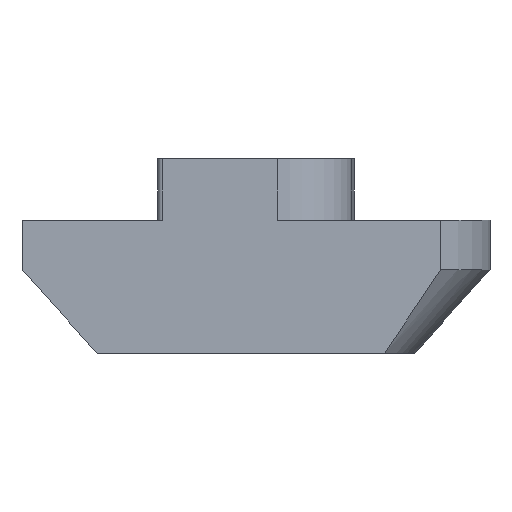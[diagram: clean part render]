
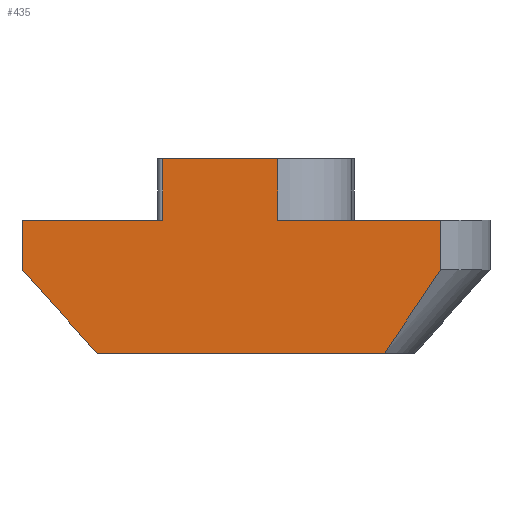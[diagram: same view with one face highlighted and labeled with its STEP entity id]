
A CAD part, front view. The second image highlights one B-rep face of the part: STEP entity #435.
In plain terms, the highlighted planar face has unit normal (0, -1, 0).
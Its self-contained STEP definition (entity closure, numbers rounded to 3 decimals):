
#118=CARTESIAN_POINT('',(-3.795,-3.9,2.5));
#119=VERTEX_POINT('',#118);
#129=CARTESIAN_POINT('',(0.877,-3.9,2.5));
#130=VERTEX_POINT('',#129);
#131=CARTESIAN_POINT('',(0.877,-3.9,2.5));
#132=DIRECTION('',(-1.0,0.0,0.0));
#133=VECTOR('',#132,4.672);
#134=LINE('',#131,#133);
#135=EDGE_CURVE('',#130,#119,#134,.T.);
#197=CARTESIAN_POINT('',(5.216,-3.9,-5.4));
#198=VERTEX_POINT('',#197);
#210=CARTESIAN_POINT('',(-6.449,-3.9,-5.4));
#211=VERTEX_POINT('',#210);
#212=CARTESIAN_POINT('',(-6.449,-3.9,-5.4));
#213=DIRECTION('',(1.0,0.0,0.0));
#214=VECTOR('',#213,11.665);
#215=LINE('',#212,#214);
#216=EDGE_CURVE('',#211,#198,#215,.T.);
#354=CARTESIAN_POINT('',(-9.5,-3.9,-2.0));
#355=VERTEX_POINT('',#354);
#356=CARTESIAN_POINT('',(-6.449,-3.9,-5.4));
#357=DIRECTION('',(-0.668,0.0,0.744));
#358=VECTOR('',#357,4.568);
#359=LINE('',#356,#358);
#360=EDGE_CURVE('',#211,#355,#359,.T.);
#372=CARTESIAN_POINT('',(3.803,-3.9,0.0));
#373=DIRECTION('',(0.0,-1.0,0.0));
#374=DIRECTION('',(0.0,0.0,-1.0));
#375=AXIS2_PLACEMENT_3D('',#372,#373,#374);
#376=PLANE('',#375);
#377=ORIENTED_EDGE('',*,*,#216,.T.);
#378=CARTESIAN_POINT('',(7.5,-3.9,-2.0));
#379=VERTEX_POINT('',#378);
#380=CARTESIAN_POINT('',(5.216,-3.9,-5.4));
#381=CARTESIAN_POINT('',(5.977,-3.9,-4.267));
#382=CARTESIAN_POINT('',(6.739,-3.9,-3.133));
#383=CARTESIAN_POINT('',(7.5,-3.9,-2.));
#384=B_SPLINE_CURVE_WITH_KNOTS('',3,(#380,#381,#382,#383),.UNSPECIFIED.,.F.,.U.,(4,4),(0.128,1.0),.UNSPECIFIED.);
#385=EDGE_CURVE('',#198,#379,#384,.T.);
#386=ORIENTED_EDGE('',*,*,#385,.T.);
#387=CARTESIAN_POINT('',(7.5,-3.9,0.0));
#388=VERTEX_POINT('',#387);
#389=CARTESIAN_POINT('',(7.5,-3.9,0.0));
#390=DIRECTION('',(0.0,0.0,-1.0));
#391=VECTOR('',#390,2.0);
#392=LINE('',#389,#391);
#393=EDGE_CURVE('',#388,#379,#392,.T.);
#394=ORIENTED_EDGE('',*,*,#393,.F.);
#395=CARTESIAN_POINT('',(0.877,-3.9,0.0));
#396=VERTEX_POINT('',#395);
#397=CARTESIAN_POINT('',(7.5,-3.9,0.0));
#398=DIRECTION('',(-1.0,0.0,0.0));
#399=VECTOR('',#398,6.623);
#400=LINE('',#397,#399);
#401=EDGE_CURVE('',#388,#396,#400,.T.);
#402=ORIENTED_EDGE('',*,*,#401,.T.);
#403=CARTESIAN_POINT('',(0.877,-3.9,2.5));
#404=DIRECTION('',(0.0,0.0,-1.0));
#405=VECTOR('',#404,2.5);
#406=LINE('',#403,#405);
#407=EDGE_CURVE('',#130,#396,#406,.T.);
#408=ORIENTED_EDGE('',*,*,#407,.F.);
#409=ORIENTED_EDGE('',*,*,#135,.T.);
#410=CARTESIAN_POINT('',(-3.795,-3.9,0.0));
#411=VERTEX_POINT('',#410);
#412=CARTESIAN_POINT('',(-3.795,-3.9,0.0));
#413=DIRECTION('',(0.0,0.0,1.0));
#414=VECTOR('',#413,2.5);
#415=LINE('',#412,#414);
#416=EDGE_CURVE('',#411,#119,#415,.T.);
#417=ORIENTED_EDGE('',*,*,#416,.F.);
#418=CARTESIAN_POINT('',(-9.5,-3.9,0.0));
#419=VERTEX_POINT('',#418);
#420=CARTESIAN_POINT('',(-3.795,-3.9,0.0));
#421=DIRECTION('',(-1.0,0.0,0.0));
#422=VECTOR('',#421,5.705);
#423=LINE('',#420,#422);
#424=EDGE_CURVE('',#411,#419,#423,.T.);
#425=ORIENTED_EDGE('',*,*,#424,.T.);
#426=CARTESIAN_POINT('',(-9.5,-3.9,0.0));
#427=DIRECTION('',(0.0,0.0,-1.0));
#428=VECTOR('',#427,2.0);
#429=LINE('',#426,#428);
#430=EDGE_CURVE('',#419,#355,#429,.T.);
#431=ORIENTED_EDGE('',*,*,#430,.T.);
#432=ORIENTED_EDGE('',*,*,#360,.F.);
#433=EDGE_LOOP('',(#377,#386,#394,#402,#408,#409,#417,#425,#431,#432));
#434=FACE_OUTER_BOUND('',#433,.T.);
#435=ADVANCED_FACE('',(#434),#376,.T.);
